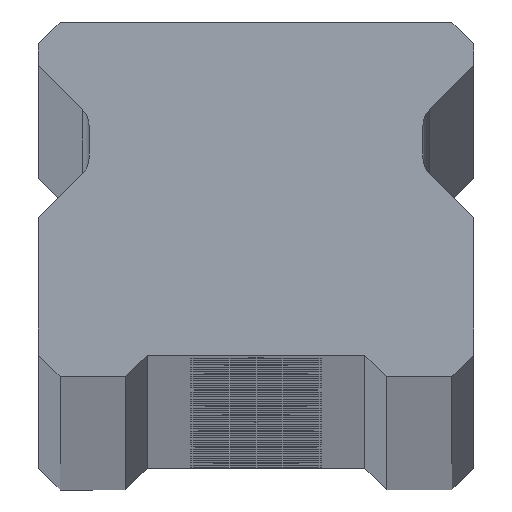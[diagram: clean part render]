
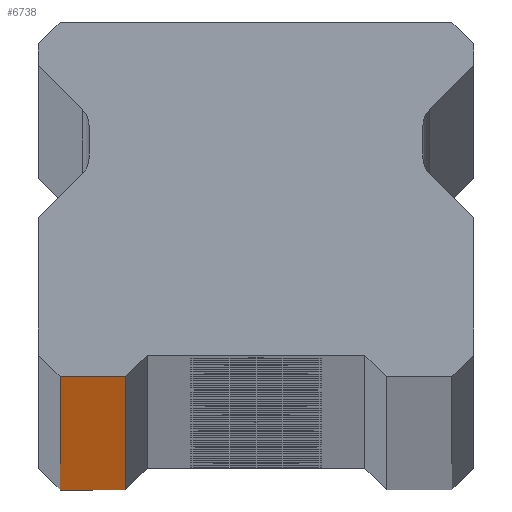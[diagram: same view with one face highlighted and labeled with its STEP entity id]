
A CAD part, top view. The second image highlights one B-rep face of the part: STEP entity #6738.
In plain terms, the highlighted planar face has unit normal (0, -1, 0).
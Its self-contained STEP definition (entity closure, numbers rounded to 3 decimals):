
#255 = VECTOR ( 'NONE', #896, 1000. ) ;
#845 = AXIS2_PLACEMENT_3D ( 'NONE', #8436, #4420, #6481 ) ;
#896 = DIRECTION ( 'NONE',  ( 1., 0., 0. ) ) ;
#1315 = VECTOR ( 'NONE', #8531, 1000. ) ;
#1505 = EDGE_LOOP ( 'NONE', ( #8193, #8162, #3614, #7373 ) ) ;
#1644 = DIRECTION ( 'NONE',  ( 0., 0., -1. ) ) ;
#1696 = LINE ( 'NONE', #5918, #5720 ) ;
#2314 = LINE ( 'NONE', #4886, #7552 ) ;
#2386 = VERTEX_POINT ( 'NONE', #4197 ) ;
#2449 = PLANE ( 'NONE',  #845 ) ;
#3008 = EDGE_CURVE ( 'NONE', #6830, #3461, #4173, .T. ) ;
#3461 = VERTEX_POINT ( 'NONE', #6965 ) ;
#3614 = ORIENTED_EDGE ( 'NONE', *, *, #3008, .F. ) ;
#3863 = EDGE_CURVE ( 'NONE', #2386, #4492, #4887, .T. ) ;
#4173 = LINE ( 'NONE', #7895, #1315 ) ;
#4197 = CARTESIAN_POINT ( 'NONE',  ( -9., 0., -1490. ) ) ;
#4420 = DIRECTION ( 'NONE',  ( 0., 1., 0. ) ) ;
#4425 = CARTESIAN_POINT ( 'NONE',  ( -6., 0., -1490. ) ) ;
#4492 = VERTEX_POINT ( 'NONE', #4425 ) ;
#4538 = EDGE_CURVE ( 'NONE', #4492, #3461, #1696, .T. ) ;
#4886 = CARTESIAN_POINT ( 'NONE',  ( -9., 0., 1490. ) ) ;
#4887 = LINE ( 'NONE', #8106, #255 ) ;
#5419 = CARTESIAN_POINT ( 'NONE',  ( -9., 0., 1490. ) ) ;
#5510 = EDGE_CURVE ( 'NONE', #6830, #2386, #2314, .T. ) ;
#5720 = VECTOR ( 'NONE', #8592, 1000. ) ;
#5900 = FACE_OUTER_BOUND ( 'NONE', #1505, .T. ) ;
#5918 = CARTESIAN_POINT ( 'NONE',  ( -6., 0., -1490. ) ) ;
#6481 = DIRECTION ( 'NONE',  ( -1., 0., 0. ) ) ;
#6738 = ADVANCED_FACE ( 'NONE', ( #5900 ), #2449, .F. ) ;
#6830 = VERTEX_POINT ( 'NONE', #5419 ) ;
#6965 = CARTESIAN_POINT ( 'NONE',  ( -6., 0., 1490. ) ) ;
#7373 = ORIENTED_EDGE ( 'NONE', *, *, #5510, .T. ) ;
#7552 = VECTOR ( 'NONE', #1644, 1000. ) ;
#7895 = CARTESIAN_POINT ( 'NONE',  ( 10., 0., 1490. ) ) ;
#8106 = CARTESIAN_POINT ( 'NONE',  ( 10., 0., -1490. ) ) ;
#8162 = ORIENTED_EDGE ( 'NONE', *, *, #4538, .T. ) ;
#8193 = ORIENTED_EDGE ( 'NONE', *, *, #3863, .T. ) ;
#8436 = CARTESIAN_POINT ( 'NONE',  ( 10., 0., 1490. ) ) ;
#8531 = DIRECTION ( 'NONE',  ( 1., 0., 0. ) ) ;
#8592 = DIRECTION ( 'NONE',  ( 0., 0., 1. ) ) ;
